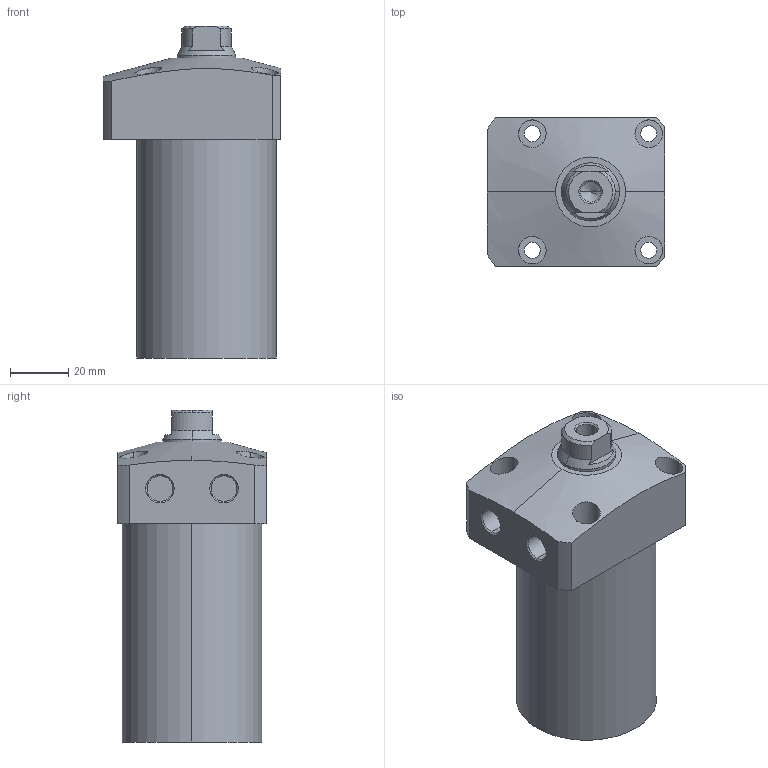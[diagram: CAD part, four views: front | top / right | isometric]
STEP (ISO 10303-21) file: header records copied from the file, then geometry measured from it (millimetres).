
FILE_DESCRIPTION (( 'STEP AP203' ), '1' );
FILE_NAME ('CLL-0480-CA-65.STEP', '2017-05-09T02:30:38', ( '' ), ( '' ), 'SwSTEP 2.0', 'SolidWorks 2015', '' );
FILE_SCHEMA (( 'CONFIG_CONTROL_DESIGN' ));
Length unit declared in the file: millimetre
Products named in the file (1): CLL-0480-CA-65
Bounding box: 61 x 51 x 114 mm (x, y, z)
Volume: 210321.6 mm3; surface area: 25874.6 mm2
Topology: 1 solids, 1 shells, 72 faces, 169 edges, 108 vertices
Faces by surface type: cylinder 35, plane 22, cone 15
Entity records: 2479 total; most frequent: CARTESIAN_POINT 714, DIRECTION 366, ORIENTED_EDGE 334, EDGE_CURVE 167, AXIS2_PLACEMENT_3D 150, VERTEX_POINT 108, EDGE_LOOP 91, CIRCLE 77
